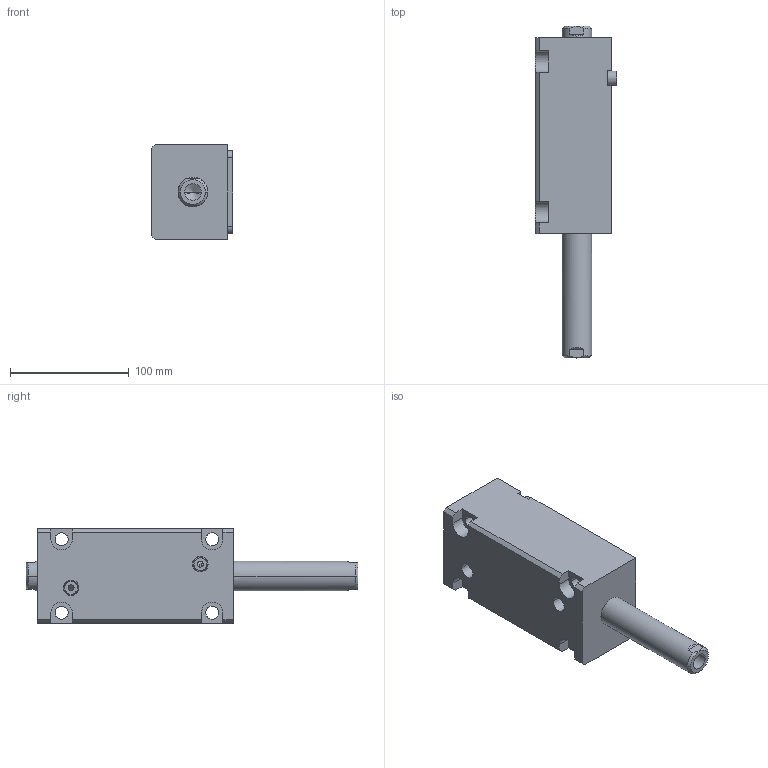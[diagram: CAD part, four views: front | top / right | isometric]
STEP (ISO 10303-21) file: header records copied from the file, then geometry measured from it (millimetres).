
FILE_DESCRIPTION (( 'STEP AP214' ), '1' );
FILE_NAME ('chtb-lw40x95n_asm.STEP', '2018-06-05T02:34:33', ( 'Windows' ), ( 'Microsoft' ), 'SwSTEP 2.0', 'SolidWorks 2015', '' );
FILE_SCHEMA (( 'AUTOMOTIVE_DESIGN' ));
Length unit declared in the file: millimetre
Products named in the file (5): CHTB-SW40X95NHSG; CHTB-SD40QG; CHTB-LW40X95NBT; CHTB-LA40PJ; chtb-lw40x95n_asm
Assembly tree (4 placements, depth 2):
  chtb-lw40x95n_asm
    CHTB-LA40PJ
    CHTB-LW40X95NBT
    CHTB-SD40QG
    CHTB-SW40X95NHSG
Bounding box: 68.5 x 280 x 80 mm (x, y, z)
Volume: 784344.9 mm3; surface area: 126215.8 mm2
Topology: 4 solids, 4 shells, 172 faces, 462 edges, 304 vertices
Faces by surface type: cylinder 77, plane 52, cone 17, bspline 14, torus 12
Entity records: 10654 total; most frequent: CARTESIAN_POINT 6188, ORIENTED_EDGE 904, DIRECTION 853, EDGE_CURVE 452, AXIS2_PLACEMENT_3D 340, VERTEX_POINT 304, EDGE_LOOP 204, CIRCLE 175
